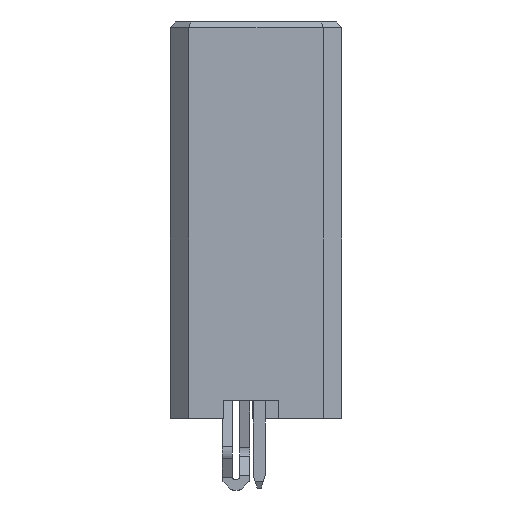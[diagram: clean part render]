
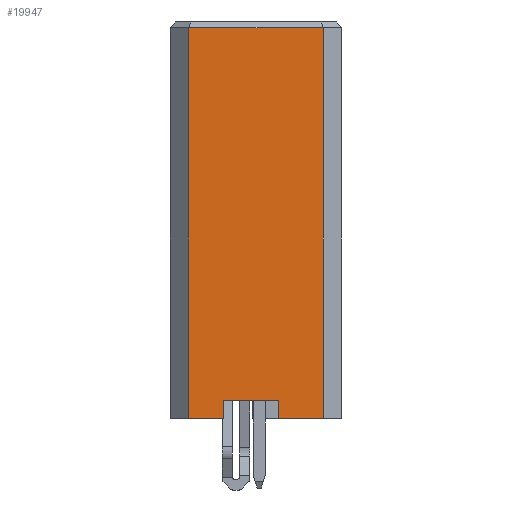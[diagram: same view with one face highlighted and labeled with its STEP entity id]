
A CAD part, left-side view. The second image highlights one B-rep face of the part: STEP entity #19947.
In plain terms, the highlighted planar face has unit normal (-1, 0, 0).
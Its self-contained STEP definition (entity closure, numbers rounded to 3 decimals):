
#527 = VERTEX_POINT ( 'NONE', #17322 ) ;
#546 = CARTESIAN_POINT ( 'NONE',  ( -16.525, 3.675, -21.6 ) ) ;
#713 = LINE ( 'NONE', #17114, #17594 ) ;
#1209 = DIRECTION ( 'NONE',  ( 0., 1., 0. ) ) ;
#1567 = LINE ( 'NONE', #3398, #13130 ) ;
#2432 = ORIENTED_EDGE ( 'NONE', *, *, #11794, .F. ) ;
#2672 = DIRECTION ( 'NONE',  ( 0., 0., -1. ) ) ;
#2749 = CARTESIAN_POINT ( 'NONE',  ( -16.525, 1.775, -20.6 ) ) ;
#3398 = CARTESIAN_POINT ( 'NONE',  ( -16.525, -1.225, -20.6 ) ) ;
#3463 = LINE ( 'NONE', #23359, #5636 ) ;
#5636 = VECTOR ( 'NONE', #15802, 1000. ) ;
#6218 = CARTESIAN_POINT ( 'NONE',  ( -16.525, -1.225, -20.6 ) ) ;
#6846 = LINE ( 'NONE', #20286, #25257 ) ;
#8046 = CARTESIAN_POINT ( 'NONE',  ( -16.525, 1.775, -20.6 ) ) ;
#8170 = VERTEX_POINT ( 'NONE', #18363 ) ;
#9213 = FACE_OUTER_BOUND ( 'NONE', #25663, .T. ) ;
#10336 = DIRECTION ( 'NONE',  ( 0., 0., 1. ) ) ;
#11526 = ORIENTED_EDGE ( 'NONE', *, *, #23972, .F. ) ;
#11794 = EDGE_CURVE ( 'NONE', #13297, #13892, #713, .T. ) ;
#11827 = EDGE_CURVE ( 'NONE', #16444, #527, #21315, .T. ) ;
#12206 = CARTESIAN_POINT ( 'NONE',  ( -16.525, 1.775, -21.6 ) ) ;
#12997 = DIRECTION ( 'NONE',  ( 0., 0., 1. ) ) ;
#13130 = VECTOR ( 'NONE', #21452, 1000. ) ;
#13176 = CARTESIAN_POINT ( 'NONE',  ( -16.525, -4.675, -0.3 ) ) ;
#13223 = EDGE_CURVE ( 'NONE', #25127, #13892, #3463, .T. ) ;
#13297 = VERTEX_POINT ( 'NONE', #12206 ) ;
#13450 = VECTOR ( 'NONE', #20813, 1000. ) ;
#13498 = ORIENTED_EDGE ( 'NONE', *, *, #21725, .T. ) ;
#13892 = VERTEX_POINT ( 'NONE', #546 ) ;
#15196 = DIRECTION ( 'NONE',  ( 0., 1., 0. ) ) ;
#15299 = VERTEX_POINT ( 'NONE', #8046 ) ;
#15413 = VERTEX_POINT ( 'NONE', #6218 ) ;
#15802 = DIRECTION ( 'NONE',  ( 0., 0., -1. ) ) ;
#15902 = LINE ( 'NONE', #13176, #22097 ) ;
#16444 = VERTEX_POINT ( 'NONE', #18490 ) ;
#16938 = DIRECTION ( 'NONE',  ( -1., 0., 0. ) ) ;
#17114 = CARTESIAN_POINT ( 'NONE',  ( -16.525, -4.675, -21.6 ) ) ;
#17195 = PLANE ( 'NONE',  #22028 ) ;
#17322 = CARTESIAN_POINT ( 'NONE',  ( -16.525, -1.225, -21.6 ) ) ;
#17594 = VECTOR ( 'NONE', #19090, 1000. ) ;
#18096 = ORIENTED_EDGE ( 'NONE', *, *, #18158, .T. ) ;
#18158 = EDGE_CURVE ( 'NONE', #8170, #25127, #15902, .T. ) ;
#18363 = CARTESIAN_POINT ( 'NONE',  ( -16.525, -3.675, -0.3 ) ) ;
#18490 = CARTESIAN_POINT ( 'NONE',  ( -16.525, -3.675, -21.6 ) ) ;
#18747 = LINE ( 'NONE', #2749, #13450 ) ;
#19090 = DIRECTION ( 'NONE',  ( 0., 1., 0. ) ) ;
#19406 = ORIENTED_EDGE ( 'NONE', *, *, #22456, .T. ) ;
#19947 = ADVANCED_FACE ( 'NONE', ( #9213 ), #17195, .T. ) ;
#20286 = CARTESIAN_POINT ( 'NONE',  ( -16.525, -3.675, 0. ) ) ;
#20652 = CARTESIAN_POINT ( 'NONE',  ( -16.525, 1.775, -20.6 ) ) ;
#20813 = DIRECTION ( 'NONE',  ( 0., -1., 0. ) ) ;
#21315 = LINE ( 'NONE', #25084, #21949 ) ;
#21438 = VECTOR ( 'NONE', #2672, 1000. ) ;
#21452 = DIRECTION ( 'NONE',  ( 0., 0., -1. ) ) ;
#21725 = EDGE_CURVE ( 'NONE', #15413, #527, #1567, .T. ) ;
#21949 = VECTOR ( 'NONE', #15196, 1000. ) ;
#21960 = EDGE_CURVE ( 'NONE', #15299, #15413, #18747, .T. ) ;
#22028 = AXIS2_PLACEMENT_3D ( 'NONE', #23022, #16938, #12997 ) ;
#22083 = LINE ( 'NONE', #20652, #21438 ) ;
#22097 = VECTOR ( 'NONE', #1209, 1000. ) ;
#22310 = ORIENTED_EDGE ( 'NONE', *, *, #13223, .T. ) ;
#22456 = EDGE_CURVE ( 'NONE', #16444, #8170, #6846, .T. ) ;
#22792 = CARTESIAN_POINT ( 'NONE',  ( -16.525, 3.675, -0.3 ) ) ;
#23022 = CARTESIAN_POINT ( 'NONE',  ( -16.525, -4.675, -21.6 ) ) ;
#23359 = CARTESIAN_POINT ( 'NONE',  ( -16.525, 3.675, -21.6 ) ) ;
#23972 = EDGE_CURVE ( 'NONE', #15299, #13297, #22083, .T. ) ;
#24223 = ORIENTED_EDGE ( 'NONE', *, *, #11827, .F. ) ;
#25084 = CARTESIAN_POINT ( 'NONE',  ( -16.525, -4.675, -21.6 ) ) ;
#25127 = VERTEX_POINT ( 'NONE', #22792 ) ;
#25257 = VECTOR ( 'NONE', #10336, 1000. ) ;
#25347 = ORIENTED_EDGE ( 'NONE', *, *, #21960, .T. ) ;
#25663 = EDGE_LOOP ( 'NONE', ( #11526, #25347, #13498, #24223, #19406, #18096, #22310, #2432 ) ) ;
